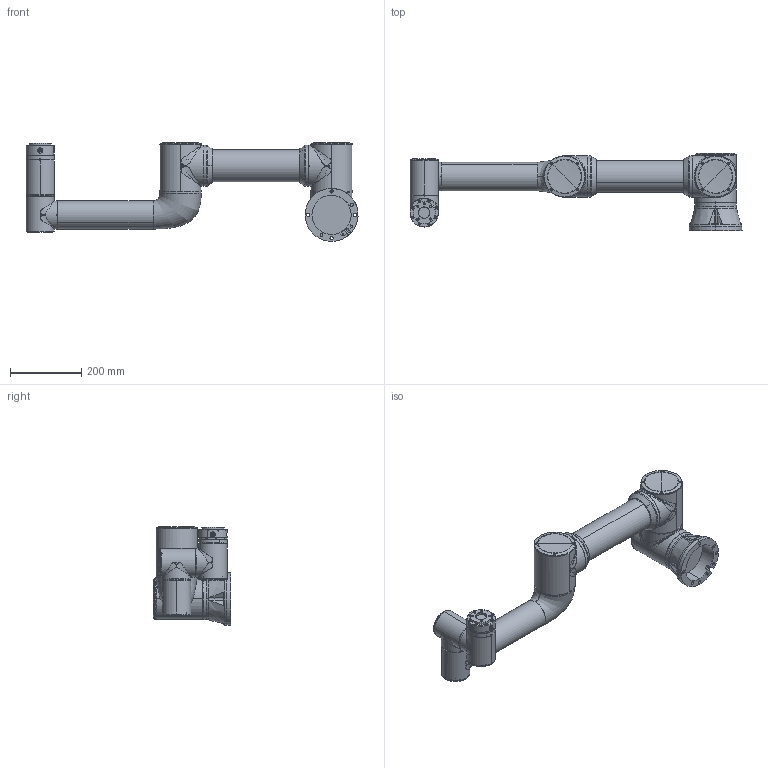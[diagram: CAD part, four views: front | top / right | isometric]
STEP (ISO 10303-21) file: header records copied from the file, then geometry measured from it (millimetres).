
FILE_DESCRIPTION (( 'STEP AP214' ), '1' );
FILE_NAME ('RD20-FR5-V6.0Èí¼þÄ£ÐÍ.STEP', '2023-03-21T10:15:42', ( '' ), ( '' ), 'SwSTEP 2.0', 'SolidWorks 2018', '' );
FILE_SCHEMA (( 'AUTOMOTIVE_DESIGN' ));
Length unit declared in the file: millimetre
Products named in the file (8): RD20-FR5-V6.0软件模型; RD20-FR5-V6.0-7; RD20-FR5-V6.0-3; RD20-FR5-V6.0-2; RD20-FR5-V6.0-1; RD20-FR5-V6.0-5; RD20-FR5-V6.0-4; RD20-FR5-V6.0-6
Assembly tree (7 placements, depth 2):
  RD20-FR5-V6.0软件模型
    RD20-FR5-V6.0-1
    RD20-FR5-V6.0-2
    RD20-FR5-V6.0-3
    RD20-FR5-V6.0-4
    RD20-FR5-V6.0-5
    RD20-FR5-V6.0-6
    RD20-FR5-V6.0-7
Bounding box: 934.4 x 217.39 x 277.89 mm (x, y, z)
Volume: 11811813.3 mm3; surface area: 723096.6 mm2
Topology: 35 solids, 56 shells, 2163 faces, 4973 edges, 3054 vertices
Faces by surface type: cylinder 772, plane 772, bspline 410, cone 133, sphere 48, torus 28
Entity records: 195368 total; most frequent: CARTESIAN_POINT 135644, ORIENTED_EDGE 9902, DIRECTION 9121, EDGE_CURVE 4951, AXIS2_PLACEMENT_3D 3582, VERTEX_POINT 3054, EDGE_LOOP 2375, ADVANCED_FACE 2163
